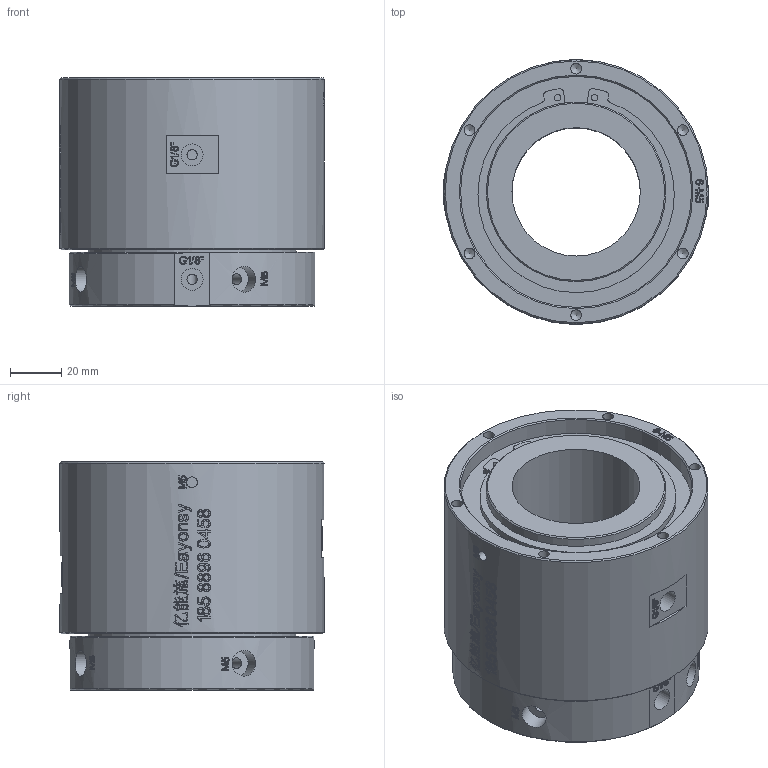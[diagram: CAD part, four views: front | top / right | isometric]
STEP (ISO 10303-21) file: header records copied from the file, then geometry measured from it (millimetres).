
FILE_DESCRIPTION(/* description */ (''),/* implementation_level */ '2;1');
FILE_NAME(/* name */ 'YQ0201-D50-3D模型.stp',/* time_stamp */ '2025-08-05T11:53:49+08:00',/* author */ (''),/* organization */ (''),/* preprocessor_version */ 'ST-DEVELOPER v16.7',/* originating_system */ 'SIEMENS PLM Software NX 12.0',/* authorisation */ '');
FILE_SCHEMA (('AUTOMOTIVE_DESIGN { 1 0 10303 214 3 1 1 1 }'));
Products named in the file (1): Admi16E026DChwo5
Bounding box: 103.31 x 103 x 89.4 mm (x, y, z)
Volume: 514005.4 mm3; surface area: 69190.7 mm2
Topology: 1 solids, 1 shells, 1563 faces, 4302 edges, 2868 vertices
Faces by surface type: extrusion 871, plane 525, cylinder 74, bspline 73, cone 20
Full cylindrical faces by diameter (mm): 2.5 x2, 4 x6, 4.1 x2, 4.2 x14, 6.8 x4, 8.5 x4, 10 x4, 50 x1, 67 x1, 70 x1, 81 x1, 90 x1, 95 x1, 103 x1
Entity records: 61712 total; most frequent: CARTESIAN_POINT 28768, ORIENTED_EDGE 8406, EDGE_CURVE 4203, B_SPLINE_CURVE_WITH_KNOTS 4182, DIRECTION 3328, VERTEX_POINT 2842, EDGE_LOOP 1763, ADVANCED_FACE 1563
